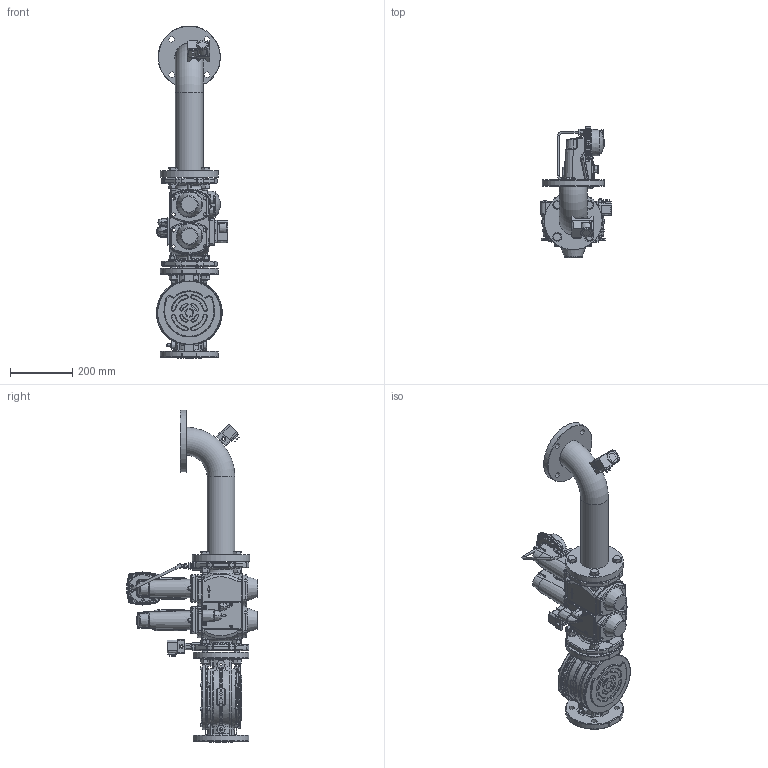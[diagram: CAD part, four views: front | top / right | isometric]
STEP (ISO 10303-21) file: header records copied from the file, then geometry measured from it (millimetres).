
FILE_DESCRIPTION (( 'STEP AP214' ), '1' );
FILE_NAME ('19990600.STEP', '2021-05-28T13:27:37', ( '' ), ( '' ), 'SwSTEP 2.0', 'SolidWorks 2018', '' );
FILE_SCHEMA (( 'AUTOMOTIVE_DESIGN' ));
Length unit declared in the file: millimetre
Products named in the file (1): 19990600
Bounding box: 228.61 x 420.8 x 1064.12 mm (x, y, z)
Surface area: 1196093.6 mm2 (no closed solid volume)
Topology: 0 solids, 187 shells, 3752 faces, 12392 edges, 8407 vertices
Faces by surface type: bspline 1298, plane 1026, cylinder 984, torus 224, cone 191, sphere 29
Full cylindrical faces by diameter (mm): 2 x1, 4 x1, 4.3 x6, 5 x1, 6.2 x2, 6.4 x3, 7 x2, 8 x4, 8.5 x5, 9 x10, 9.73 x1, 10 x8, 11.55 x1, 12 x2, 12.5 x2, 13 x2, 14 x1, 15 x3, 16 x13, 16.2 x4, 17.8 x1, 18 x12, 18.5 x3, 22.5 x4, 23 x1, 24 x4, 24.5 x4, 26 x5, 30 x16, 32 x1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
Entity records: 269561 total; most frequent: CARTESIAN_POINT 137895, ORIENTED_EDGE 18744, DIRECTION 15310, EDGE_CURVE 11874, VERTEX_POINT 8259, AXIS2_PLACEMENT_3D 5800, B_SPLINE_CURVE_WITH_KNOTS 4423, EDGE_LOOP 4390
